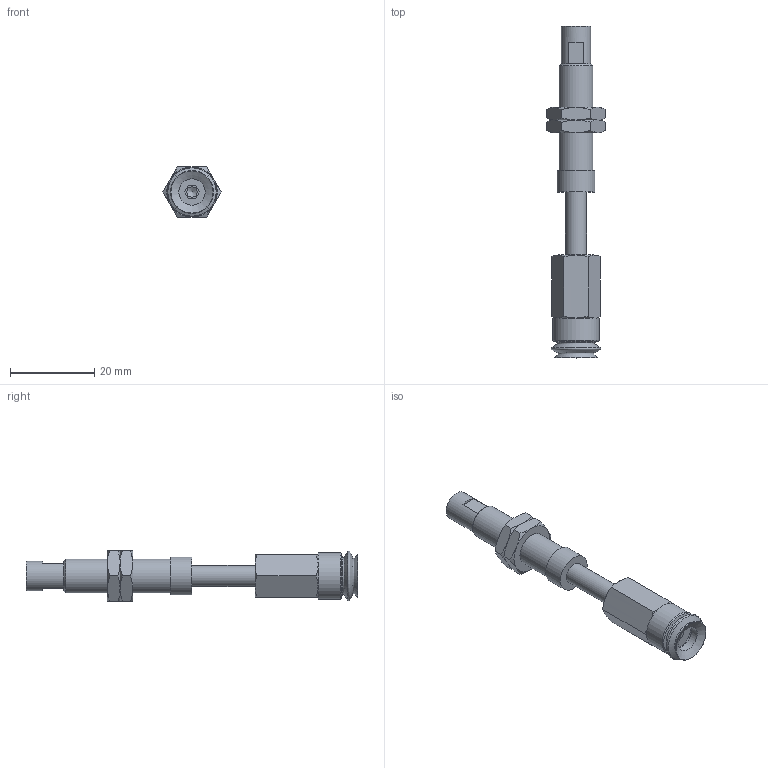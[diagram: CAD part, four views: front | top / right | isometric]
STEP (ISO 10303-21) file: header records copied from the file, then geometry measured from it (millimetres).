
FILE_DESCRIPTION(('STEP AP203'),'1');
FILE_NAME('.stp','2025-08-27T07:27:36',(' '),(' '),'Spatial InterOp 3D',' ',' ');
FILE_SCHEMA(('CONFIG_CONTROL_DESIGN'));
Length unit declared in the file: millimetre
Products named in the file (7): BNABPJTS-10-15-※; ADAPTER; NAPCTS-10-15-MBODY; Adapter-10-NAPJ; NUT-NAPJ-10-15-s; NAPJTS-10-15-FBODY; BPJG-10-※
Assembly tree (7 placements, depth 2):
  BNABPJTS-10-15-※
    ADAPTER
    NAPCTS-10-15-MBODY
    Adapter-10-NAPJ
    NUT-NAPJ-10-15-s  x2
    NAPJTS-10-15-FBODY
    BPJG-10-※
Bounding box: 13.86 x 79 x 12 mm (x, y, z)
Volume: 4510.8 mm3; surface area: 4942.3 mm2
Topology: 7 solids, 7 shells, 122 faces, 255 edges, 153 vertices
Faces by surface type: cone 51, plane 48, cylinder 16, torus 7
Full cylindrical faces by diameter (mm): 2.5 x1, 4.134 x2, 4.6 x1, 5 x3, 6.266 x1, 7 x1, 7.188 x2, 7.8 x1, 8 x2, 9 x1, 11 x1
Entity records: 3108 total; most frequent: CARTESIAN_POINT 876, DIRECTION 402, ORIENTED_EDGE 322, AXIS2_PLACEMENT_3D 182, EDGE_CURVE 161, EDGE_LOOP 148, FACE_OUTER_BOUND 121, VERTEX_POINT 116
